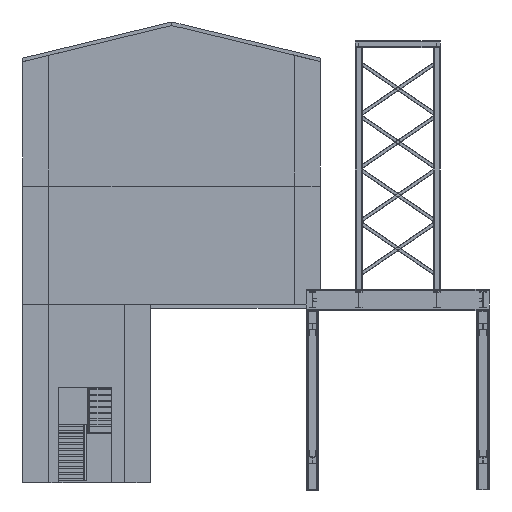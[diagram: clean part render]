
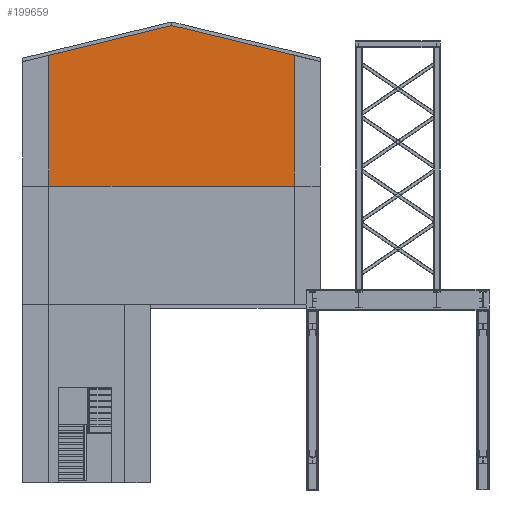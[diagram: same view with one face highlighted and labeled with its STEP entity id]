
A CAD part, left-side view. The second image highlights one B-rep face of the part: STEP entity #199659.
In plain terms, the highlighted planar face has unit normal (-1, 0, 0) as drawn and (1, 0, 0) by its records, which use the part's own axes.
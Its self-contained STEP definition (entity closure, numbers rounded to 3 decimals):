
#39677=VECTOR('',#301544,1.);
#39679=VECTOR('',#301548,1.);
#39682=VECTOR('',#301553,1.);
#39683=VECTOR('',#301554,1.);
#39684=VECTOR('',#301555,1.);
#65511=LINE('',#254705,#39677);
#65513=LINE('',#254709,#39679);
#65516=LINE('',#254715,#39682);
#65517=LINE('',#254717,#39683);
#65518=LINE('',#254718,#39684);
#82660=VERTEX_POINT('',#254702);
#82661=VERTEX_POINT('',#254704);
#82662=VERTEX_POINT('',#254708);
#82664=VERTEX_POINT('',#254714);
#82665=VERTEX_POINT('',#254716);
#108461=EDGE_CURVE('',#82661,#82660,#65511,.T.);
#108463=EDGE_CURVE('',#82660,#82662,#65513,.T.);
#108466=EDGE_CURVE('',#82664,#82662,#65516,.T.);
#108467=EDGE_CURVE('',#82665,#82664,#65517,.T.);
#108468=EDGE_CURVE('',#82661,#82665,#65518,.T.);
#159960=ORIENTED_EDGE('',*,*,#108463,.T.);
#159961=ORIENTED_EDGE('',*,*,#108466,.F.);
#159962=ORIENTED_EDGE('',*,*,#108467,.F.);
#159963=ORIENTED_EDGE('',*,*,#108468,.F.);
#159964=ORIENTED_EDGE('',*,*,#108461,.T.);
#169983=EDGE_LOOP('',(#159960,#159961,#159962,#159963,#159964));
#179875=FACE_BOUND('',#169983,.T.);
#189767=PLANE('',#312164);
#199659=ADVANCED_FACE('',(#179875),#189767,.T.);
#254702=CARTESIAN_POINT('',(1855.,7420.574,8355.));
#254704=CARTESIAN_POINT('',(1855.,509.426,8355.));
#254705=CARTESIAN_POINT('',(1855.,509.426,8355.));
#254708=CARTESIAN_POINT('',(1855.,7420.574,12032.573));
#254709=CARTESIAN_POINT('',(1855.,7420.574,8355.));
#254713=CARTESIAN_POINT('',(1855.,7420.574,12032.573));
#254714=CARTESIAN_POINT('',(1855.,3955.,12873.775));
#254715=CARTESIAN_POINT('',(1855.,3955.,12873.775));
#254716=CARTESIAN_POINT('',(1855.,509.426,12037.428));
#254717=CARTESIAN_POINT('',(1855.,509.426,12037.428));
#254718=CARTESIAN_POINT('',(1855.,509.426,8355.));
#301544=DIRECTION('',(0.,1.,0.));
#301548=DIRECTION('',(0.,0.,1.));
#301551=DIRECTION('',(1.,0.,0.));
#301552=DIRECTION('',(0.,0.,-1.));
#301553=DIRECTION('',(0.,0.972,-0.236));
#301554=DIRECTION('',(0.,0.972,0.236));
#301555=DIRECTION('',(0.,0.,1.));
#312164=AXIS2_PLACEMENT_3D('',#254713,#301551,#301552);
